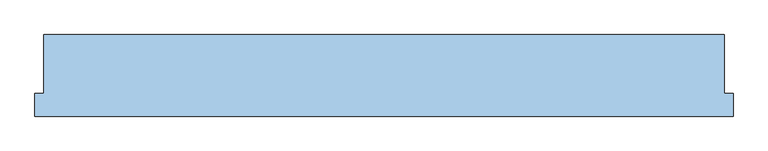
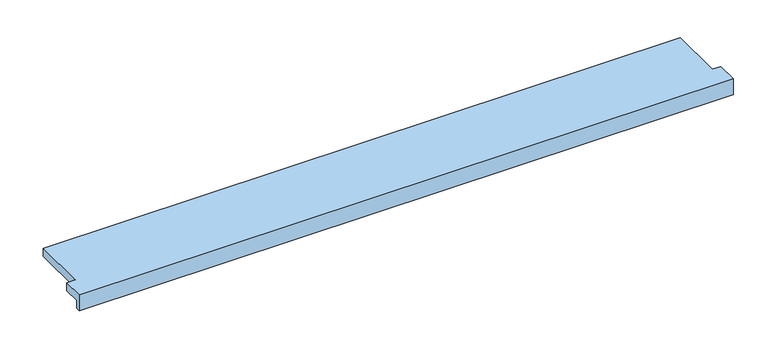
"""IFC4 building model written with IfcOpenShell, lengths in millimetres: window geometry, В2В_Подоконник_ПВХ : ОК 2."""

from ifc_helpers import new_model, si_unit, origin, place, context, project, spatial, faceted_brep, source, transform, mapped, element, save


def window_3b6728a6(model_context):
    return source(origin(), model_context, "Body", "Brep", [
        faceted_brep([(750.0, 0.0, 0.0), (750.0, 0.0, 20.0), (750.0, -130.0, 20.0), (750.0, -130.0, 0.0), (-750.0, 0.0, 0.0), (-750.0, -130.0, 0.0), (-750.0, -130.0, 20.0), (-750.0, 0.0, 20.0), (-770.0, -130.0, 20.0), (-770.0, -180.0, 20.0), (770.0, -180.0, 20.0), (770.0, -130.0, 20.0), (770.0, -130.0, 0.0), (770.0, -170.0, 0.0), (-770.0, -170.0, 0.0), (-770.0, -130.0, 0.0), (770.0, -180.0, -20.0), (770.0, -170.0, -20.0), (-770.0, -170.0, -20.0), (-770.0, -180.0, -20.0)], [[[0, 1, 2, 3]], [[4, 5, 6, 7]], [[1, 0, 4, 7]], [[2, 1, 7, 6, 8, 9, 10, 11]], [[0, 3, 12, 13, 14, 15, 5, 4]], [[12, 11, 10, 16, 17, 13]], [[15, 14, 18, 19, 9, 8]], [[11, 12, 3, 2]], [[15, 8, 6, 5]], [[16, 10, 9, 19]], [[17, 16, 19, 18]], [[13, 17, 18, 14]]]),
    ])


if __name__ == "__main__":
    model = new_model("IFC4")
    model_context = context("Model", 3, world=origin())
    ifc_project = project(units=[si_unit("LENGTHUNIT", "METRE", prefix="MILLI")], contexts=[model_context])
    site = spatial("IfcSite", under=ifc_project)
    building = spatial("IfcBuilding", under=site)
    placement = place(None, origin())
    window_shape = window_3b6728a6(model_context)
    element("IfcWindow", 1, ObjectType="В2В_Подоконник_ПВХ : ОК 2", at=placement, inside=building, context=model_context, shape_type="MappedRepresentation", body=[
        mapped(window_shape, transform((0.0, 0.0, 0.0), x_axis=(1.0, 0.0, 0.0), y_axis=(0.0, 1.0, 0.0), z_axis=(0.0, 0.0, 1.0))),
    ])
    save(model, "model.ifc")
